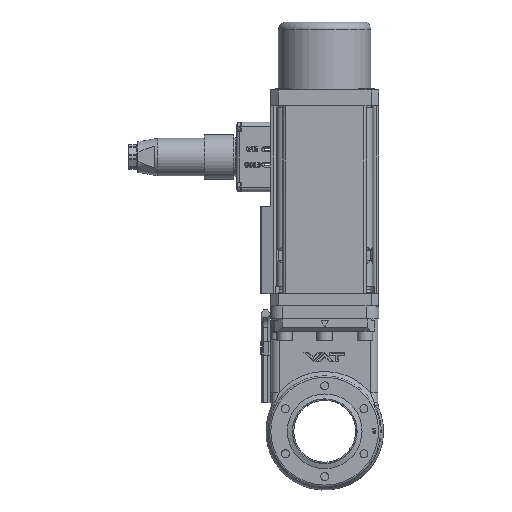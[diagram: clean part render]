
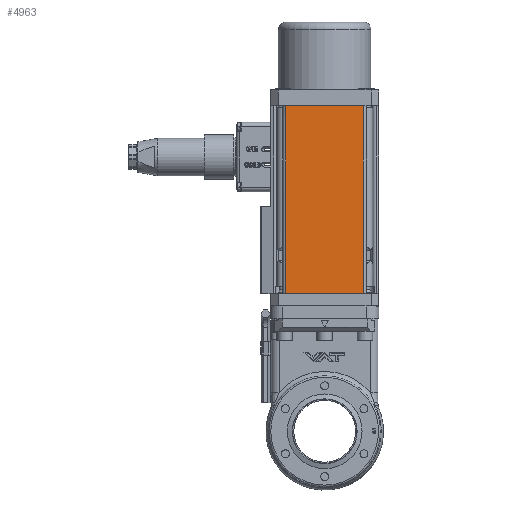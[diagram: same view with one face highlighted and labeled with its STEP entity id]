
A CAD part, top view. The second image highlights one B-rep face of the part: STEP entity #4963.
In plain terms, the highlighted planar face has unit normal (0, 0, 1) as drawn and (0, -1, 0) by its records, which use the part's own axes.
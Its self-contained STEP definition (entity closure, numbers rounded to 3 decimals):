
#4189=FACE_OUTER_BOUND('',#10061,.T.);
#4963=ADVANCED_FACE('',(#4189),#5976,.F.);
#5976=PLANE('',#21476);
#6658=LINE('',#28931,#7951);
#6682=LINE('',#29013,#7975);
#6687=LINE('',#29037,#7980);
#6688=LINE('',#29039,#7981);
#7951=VECTOR('',#23465,1.);
#7975=VECTOR('',#23549,1.);
#7980=VECTOR('',#23576,1.);
#7981=VECTOR('',#23579,1.);
#10061=EDGE_LOOP('',(#11958,#11959,#11960,#11961));
#11958=ORIENTED_EDGE('',*,*,#18419,.F.);
#11959=ORIENTED_EDGE('',*,*,#18432,.F.);
#11960=ORIENTED_EDGE('',*,*,#18375,.T.);
#11961=ORIENTED_EDGE('',*,*,#18433,.T.);
#16550=VERTEX_POINT('',#28930);
#16551=VERTEX_POINT('',#28932);
#16578=VERTEX_POINT('',#29012);
#16579=VERTEX_POINT('',#29014);
#18375=EDGE_CURVE('',#16551,#16550,#6658,.T.);
#18419=EDGE_CURVE('',#16578,#16579,#6682,.T.);
#18432=EDGE_CURVE('',#16551,#16578,#6687,.T.);
#18433=EDGE_CURVE('',#16550,#16579,#6688,.T.);
#21476=AXIS2_PLACEMENT_3D('',#29040,#23580,#23581);
#23465=DIRECTION('',(1.,0.,0.));
#23549=DIRECTION('',(1.,0.,0.));
#23576=DIRECTION('',(0.,0.,1.));
#23579=DIRECTION('',(0.,0.,1.));
#23580=DIRECTION('',(0.,1.,0.));
#23581=DIRECTION('',(0.,0.,-1.));
#28930=CARTESIAN_POINT('',(25.079,-35.,-121.65));
#28931=CARTESIAN_POINT('',(-25.079,-35.,-121.65));
#28932=CARTESIAN_POINT('',(-25.079,-35.,-121.65));
#29012=CARTESIAN_POINT('',(-25.079,-35.,0.));
#29013=CARTESIAN_POINT('',(-25.079,-35.,0.));
#29014=CARTESIAN_POINT('',(25.079,-35.,0.));
#29037=CARTESIAN_POINT('',(-25.079,-35.,-121.65));
#29039=CARTESIAN_POINT('',(25.079,-35.,-121.65));
#29040=CARTESIAN_POINT('',(-25.079,-35.,-121.65));
